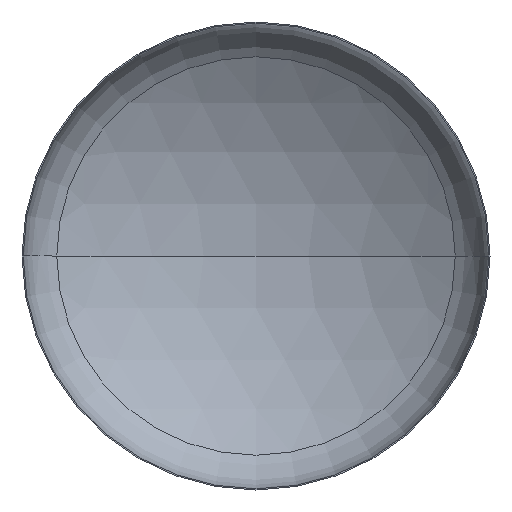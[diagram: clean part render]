
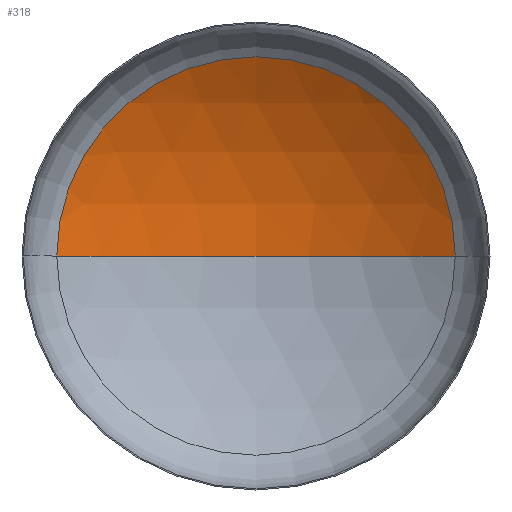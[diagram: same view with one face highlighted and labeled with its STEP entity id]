
A CAD part, front view. The second image highlights one B-rep face of the part: STEP entity #318.
In plain terms, the highlighted spherical face has radius 2240 mm.
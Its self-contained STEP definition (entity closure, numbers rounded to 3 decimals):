
#1 = AXIS2_PLACEMENT_3D ( 'NONE', #277, #383, #240 ) ;
#18 = AXIS2_PLACEMENT_3D ( 'NONE', #325, #184, #188 ) ;
#21 = AXIS2_PLACEMENT_3D ( 'NONE', #154, #162, #358 ) ;
#26 = AXIS2_PLACEMENT_3D ( 'NONE', #236, #245, #67 ) ;
#44 = EDGE_LOOP ( 'NONE', ( #115, #105, #66 ) ) ;
#58 = CIRCLE ( 'NONE', #18, 2240. ) ;
#66 = ORIENTED_EDGE ( 'NONE', *, *, #326, .T. ) ;
#67 = DIRECTION ( 'NONE',  ( -1., 0., 0. ) ) ;
#72 = VERTEX_POINT ( 'NONE', #197 ) ;
#79 = FACE_OUTER_BOUND ( 'NONE', #44, .T. ) ;
#105 = ORIENTED_EDGE ( 'NONE', *, *, #329, .T. ) ;
#109 = SPHERICAL_SURFACE ( 'NONE', #26, 2240. ) ;
#111 = VERTEX_POINT ( 'NONE', #203 ) ;
#115 = ORIENTED_EDGE ( 'NONE', *, *, #390, .F. ) ;
#144 = VERTEX_POINT ( 'NONE', #215 ) ;
#154 = CARTESIAN_POINT ( 'NONE',  ( 0., 389.088, 0. ) ) ;
#162 = DIRECTION ( 'NONE',  ( 0., -1., 0. ) ) ;
#184 = DIRECTION ( 'NONE',  ( 0., 0., -1. ) ) ;
#185 = CIRCLE ( 'NONE', #21, 1191.779 ) ;
#188 = DIRECTION ( 'NONE',  ( -1., 0., 0. ) ) ;
#197 = CARTESIAN_POINT ( 'NONE',  ( 0., 732.443, 0. ) ) ;
#203 = CARTESIAN_POINT ( 'NONE',  ( 1191.779, 389.088, 0. ) ) ;
#215 = CARTESIAN_POINT ( 'NONE',  ( -1191.779, 389.088, 0. ) ) ;
#236 = CARTESIAN_POINT ( 'NONE',  ( 0., -1507.557, 0. ) ) ;
#240 = DIRECTION ( 'NONE',  ( 1., 0., 0. ) ) ;
#245 = DIRECTION ( 'NONE',  ( 0., 0., -1. ) ) ;
#277 = CARTESIAN_POINT ( 'NONE',  ( 0., -1507.557, 0. ) ) ;
#318 = ADVANCED_FACE ( 'NONE', ( #79 ), #109, .F. ) ;
#325 = CARTESIAN_POINT ( 'NONE',  ( 0., -1507.557, 0. ) ) ;
#326 = EDGE_CURVE ( 'NONE', #111, #144, #185, .T. ) ;
#329 = EDGE_CURVE ( 'NONE', #72, #111, #58, .T. ) ;
#357 = CIRCLE ( 'NONE', #1, 2240. ) ;
#358 = DIRECTION ( 'NONE',  ( 1., 0., 0. ) ) ;
#383 = DIRECTION ( 'NONE',  ( 0., 0., 1. ) ) ;
#390 = EDGE_CURVE ( 'NONE', #72, #144, #357, .T. ) ;
